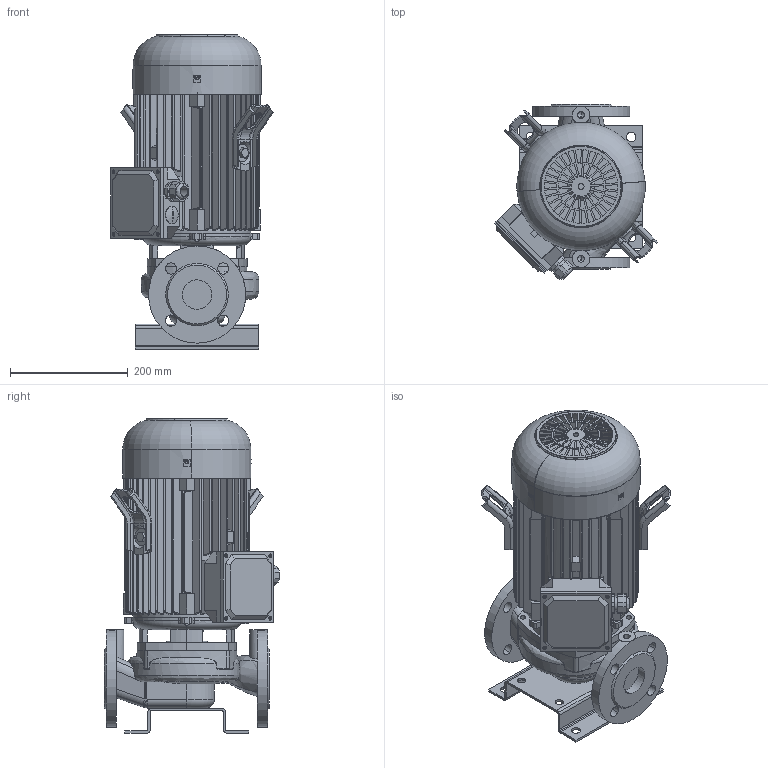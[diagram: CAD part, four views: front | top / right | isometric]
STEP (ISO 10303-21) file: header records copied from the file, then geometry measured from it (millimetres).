
FILE_DESCRIPTION(('STEP AP214'),'1');
FILE_NAME('export.stp','2018-05-29T06:20:43',(' '),(' '),'Spatial InterOp 3D',' ',' ');
FILE_SCHEMA(('AUTOMOTIVE_DESIGN { 1 0 10303 214 1 1 1 1 }'));
Length unit declared in the file: millimetre
Products named in the file (17): W_L50C2400_KP112; V_TLL50ABC; V_PPL50ABC; V_JALKA35973; 440017; 440016; V_MKP-112-1_F16; 440014___; 440018; 440021; 480022; 480020; 480019; 480023; DIN_EN_24017_-_M10_20_DIN_EN_240; M25_Blind_Plug; M25_tiivisteholkk
Assembly tree (18 placements, depth 4):
  W_L50C2400_KP112
    V_TLL50ABC
    V_PPL50ABC
    V_JALKA35973
    V_MKP-112-1_F16
      440017
        440016
      440014___
      440018
      440021
      480022
      480020
      480019  x2
      480023
      DIN_EN_24017_-_M10_20_DIN_EN_240  x2
      M25_Blind_Plug
      M25_tiivisteholkk
Bounding box: 276.21 x 297.65 x 534.2 mm (x, y, z)
Volume: 5009174.9 mm3; surface area: 1435470.1 mm2
Topology: 16 solids, 16 shells, 1858 faces, 5178 edges, 3383 vertices
Faces by surface type: cylinder 921, plane 627, cone 146, torus 126, bspline 30, sphere 8
Entity records: 69574 total; most frequent: CARTESIAN_POINT 20562, ORIENTED_EDGE 9794, DIRECTION 9503, EDGE_CURVE 4897, AXIS2_PLACEMENT_3D 3642, VERTEX_POINT 3213, LINE 2219, VECTOR 2219
